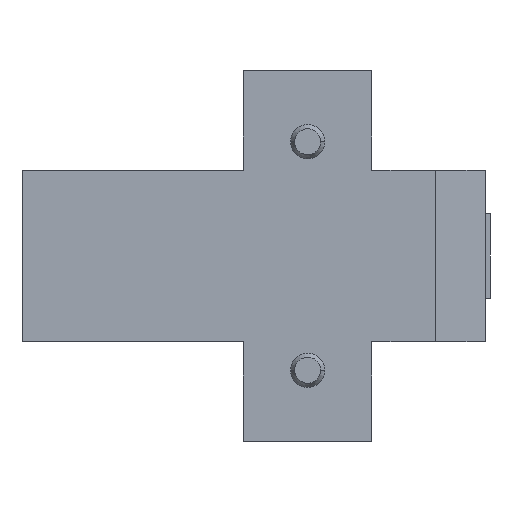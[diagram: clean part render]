
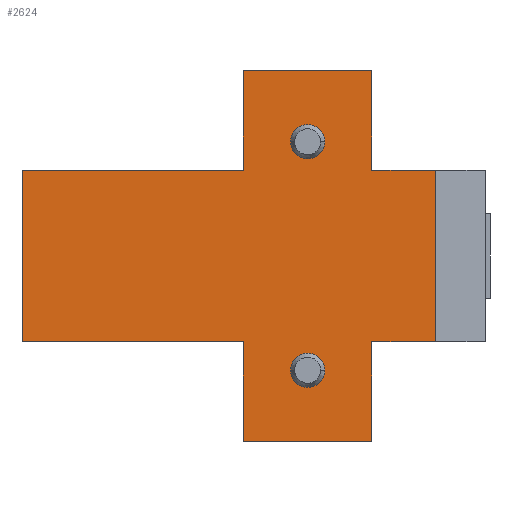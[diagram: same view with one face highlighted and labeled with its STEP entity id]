
A CAD part, left-side view. The second image highlights one B-rep face of the part: STEP entity #2624.
In plain terms, the highlighted planar face has unit normal (-1, 0, 0).
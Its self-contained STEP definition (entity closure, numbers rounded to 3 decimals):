
#481 = CARTESIAN_POINT ( 'NONE',  ( 0., 0., 16. ) ) ;
#482 = DIRECTION ( 'NONE',  ( -1., 0., 0. ) ) ;
#483 = DIRECTION ( 'NONE',  ( 0., 0., -1. ) ) ;
#628 = ORIENTED_EDGE ( 'NONE', *, *, #2740, .F. ) ;
#630 = ORIENTED_EDGE ( 'NONE', *, *, #2713, .F. ) ;
#635 = ORIENTED_EDGE ( 'NONE', *, *, #2745, .F. ) ;
#636 = ORIENTED_EDGE ( 'NONE', *, *, #2741, .F. ) ;
#637 = ORIENTED_EDGE ( 'NONE', *, *, #2743, .F. ) ;
#641 = ORIENTED_EDGE ( 'NONE', *, *, #2744, .F. ) ;
#645 = ORIENTED_EDGE ( 'NONE', *, *, #2747, .F. ) ;
#648 = ORIENTED_EDGE ( 'NONE', *, *, #2748, .T. ) ;
#649 = ORIENTED_EDGE ( 'NONE', *, *, #2750, .F. ) ;
#653 = ORIENTED_EDGE ( 'NONE', *, *, #2742, .T. ) ;
#655 = EDGE_LOOP ( 'NONE', ( #636, #653, #637, #641, #635, #645, #648, #649, #656, #657, #664, #665 ) ) ;
#656 = ORIENTED_EDGE ( 'NONE', *, *, #2751, .F. ) ;
#657 = ORIENTED_EDGE ( 'NONE', *, *, #2752, .F. ) ;
#664 = ORIENTED_EDGE ( 'NONE', *, *, #2753, .T. ) ;
#665 = ORIENTED_EDGE ( 'NONE', *, *, #2755, .T. ) ;
#672 = ORIENTED_EDGE ( 'NONE', *, *, #2756, .F. ) ;
#673 = ORIENTED_EDGE ( 'NONE', *, *, #2678, .F. ) ;
#687 = EDGE_LOOP ( 'NONE', ( #628, #630 ) ) ;
#805 = EDGE_LOOP ( 'NONE', ( #672, #673 ) ) ;
#1143 = CARTESIAN_POINT ( 'NONE',  ( 0., 2.4, 16. ) ) ;
#1146 = CARTESIAN_POINT ( 'NONE',  ( 0., -9., 26. ) ) ;
#1154 = CARTESIAN_POINT ( 'NONE',  ( 0., -9., -12. ) ) ;
#1155 = CARTESIAN_POINT ( 'NONE',  ( 0., -17.9, 12. ) ) ;
#1156 = CARTESIAN_POINT ( 'NONE',  ( 0., -9., 12. ) ) ;
#1158 = CARTESIAN_POINT ( 'NONE',  ( 0., -17.9, -12. ) ) ;
#1159 = CARTESIAN_POINT ( 'NONE',  ( 0., 40., -12. ) ) ;
#1160 = CARTESIAN_POINT ( 'NONE',  ( 0., 40., 12. ) ) ;
#1162 = CARTESIAN_POINT ( 'NONE',  ( 0., 9., 26. ) ) ;
#1163 = CARTESIAN_POINT ( 'NONE',  ( 0., 9., -12. ) ) ;
#1165 = CARTESIAN_POINT ( 'NONE',  ( 0., 9., -26. ) ) ;
#1168 = CARTESIAN_POINT ( 'NONE',  ( 0., 9., 12. ) ) ;
#1171 = CARTESIAN_POINT ( 'NONE',  ( 0., -9., -26. ) ) ;
#1177 = CARTESIAN_POINT ( 'NONE',  ( 0., -2.4, -16. ) ) ;
#1181 = CARTESIAN_POINT ( 'NONE',  ( 0., 2.4, -16. ) ) ;
#1394 = DIRECTION ( 'NONE',  ( 1., 0., 0. ) ) ;
#1397 = FACE_BOUND ( 'NONE', #687, .T. ) ;
#1398 = CARTESIAN_POINT ( 'NONE',  ( 0., -5.007, -12. ) ) ;
#1399 = FACE_OUTER_BOUND ( 'NONE', #655, .T. ) ;
#1401 = FACE_BOUND ( 'NONE', #805, .T. ) ;
#1402 = PLANE ( 'NONE',  #2251 ) ;
#1403 = DIRECTION ( 'NONE',  ( 0., 0., -1. ) ) ;
#1726 = CARTESIAN_POINT ( 'NONE',  ( 0., -2.4, 16. ) ) ;
#1801 = CARTESIAN_POINT ( 'NONE',  ( 0., 0., -16. ) ) ;
#1802 = DIRECTION ( 'NONE',  ( -1., 0., 0. ) ) ;
#1803 = DIRECTION ( 'NONE',  ( 0., 0., -1. ) ) ;
#1886 = CARTESIAN_POINT ( 'NONE',  ( 0., 9., -26. ) ) ;
#1887 = LINE ( 'NONE', #1886, #2297 ) ;
#1892 = LINE ( 'NONE', #1900, #2130 ) ;
#1893 = CARTESIAN_POINT ( 'NONE',  ( 0., 0., -16. ) ) ;
#1894 = DIRECTION ( 'NONE',  ( -1., 0., 0. ) ) ;
#1895 = DIRECTION ( 'NONE',  ( 0., 0., -1. ) ) ;
#1896 = DIRECTION ( 'NONE',  ( 0., 0., 1. ) ) ;
#1897 = LINE ( 'NONE', #1898, #2427 ) ;
#1898 = CARTESIAN_POINT ( 'NONE',  ( 0., -5.007, 12. ) ) ;
#1899 = DIRECTION ( 'NONE',  ( 0., 1., 0. ) ) ;
#1900 = CARTESIAN_POINT ( 'NONE',  ( 0., 40., -12. ) ) ;
#1901 = DIRECTION ( 'NONE',  ( 0., 0., 1. ) ) ;
#1902 = LINE ( 'NONE', #1903, #2274 ) ;
#1903 = CARTESIAN_POINT ( 'NONE',  ( 0., -5.007, -12. ) ) ;
#1904 = DIRECTION ( 'NONE',  ( 0., 1., 0. ) ) ;
#1905 = LINE ( 'NONE', #1907, #2288 ) ;
#1907 = CARTESIAN_POINT ( 'NONE',  ( 0., 9., -26. ) ) ;
#1908 = DIRECTION ( 'NONE',  ( 0., 0., 1. ) ) ;
#1909 = LINE ( 'NONE', #1918, #2261 ) ;
#1914 = LINE ( 'NONE', #1915, #2225 ) ;
#1915 = CARTESIAN_POINT ( 'NONE',  ( 0., -9., -26. ) ) ;
#1916 = DIRECTION ( 'NONE',  ( 0., 1., 0. ) ) ;
#1918 = CARTESIAN_POINT ( 'NONE',  ( 0., -9., -26. ) ) ;
#1919 = DIRECTION ( 'NONE',  ( 0., 0., 1. ) ) ;
#1921 = LINE ( 'NONE', #1930, #2036 ) ;
#1924 = LINE ( 'NONE', #1932, #2003 ) ;
#1926 = LINE ( 'NONE', #1927, #2112 ) ;
#1927 = CARTESIAN_POINT ( 'NONE',  ( 0., -9., -12. ) ) ;
#1928 = DIRECTION ( 'NONE',  ( 0., 1., 0. ) ) ;
#1930 = CARTESIAN_POINT ( 'NONE',  ( 0., -17.9, 38.015 ) ) ;
#1931 = DIRECTION ( 'NONE',  ( 0., 0., -1. ) ) ;
#1932 = CARTESIAN_POINT ( 'NONE',  ( 0., -9., 12. ) ) ;
#1933 = DIRECTION ( 'NONE',  ( 0., -1., 0. ) ) ;
#1934 = LINE ( 'NONE', #1936, #2472 ) ;
#1936 = CARTESIAN_POINT ( 'NONE',  ( 0., -9., -26. ) ) ;
#1937 = DIRECTION ( 'NONE',  ( 0., 0., 1. ) ) ;
#1942 = LINE ( 'NONE', #1943, #2369 ) ;
#1943 = CARTESIAN_POINT ( 'NONE',  ( 0., -9., 26. ) ) ;
#1944 = DIRECTION ( 'NONE',  ( 0., 1., 0. ) ) ;
#1946 = CARTESIAN_POINT ( 'NONE',  ( 0., 0., 16. ) ) ;
#1947 = DIRECTION ( 'NONE',  ( -1., 0., 0. ) ) ;
#1948 = DIRECTION ( 'NONE',  ( 0., 0., -1. ) ) ;
#2003 = VECTOR ( 'NONE', #1933, 1000. ) ;
#2036 = VECTOR ( 'NONE', #1931, 1000. ) ;
#2112 = VECTOR ( 'NONE', #1928, 1000. ) ;
#2130 = VECTOR ( 'NONE', #1901, 1000. ) ;
#2168 = CIRCLE ( 'NONE', #2374, 2.4 ) ;
#2191 = CIRCLE ( 'NONE', #2397, 2.4 ) ;
#2225 = VECTOR ( 'NONE', #1916, 1000. ) ;
#2251 = AXIS2_PLACEMENT_3D ( 'NONE', #1398, #1394, #1403 ) ;
#2261 = VECTOR ( 'NONE', #1919, 1000. ) ;
#2274 = VECTOR ( 'NONE', #1904, 1000. ) ;
#2288 = VECTOR ( 'NONE', #1908, 1000. ) ;
#2297 = VECTOR ( 'NONE', #1896, 1000. ) ;
#2327 = AXIS2_PLACEMENT_3D ( 'NONE', #1801, #1802, #1803 ) ;
#2369 = VECTOR ( 'NONE', #1944, 1000. ) ;
#2374 = AXIS2_PLACEMENT_3D ( 'NONE', #481, #482, #483 ) ;
#2397 = AXIS2_PLACEMENT_3D ( 'NONE', #1893, #1894, #1895 ) ;
#2427 = VECTOR ( 'NONE', #1899, 1000. ) ;
#2456 = CIRCLE ( 'NONE', #2327, 2.4 ) ;
#2470 = AXIS2_PLACEMENT_3D ( 'NONE', #1946, #1947, #1948 ) ;
#2472 = VECTOR ( 'NONE', #1937, 1000. ) ;
#2488 = CIRCLE ( 'NONE', #2470, 2.4 ) ;
#2624 = ADVANCED_FACE ( 'NONE', ( #1397, #1399, #1401 ), #1402, .F. ) ;
#2678 = EDGE_CURVE ( 'NONE', #3628, #3820, #2168, .T. ) ;
#2713 = EDGE_CURVE ( 'NONE', #3666, #3662, #2456, .T. ) ;
#2740 = EDGE_CURVE ( 'NONE', #3662, #3666, #2191, .T. ) ;
#2741 = EDGE_CURVE ( 'NONE', #3653, #3647, #1887, .T. ) ;
#2742 = EDGE_CURVE ( 'NONE', #3653, #3645, #1897, .T. ) ;
#2743 = EDGE_CURVE ( 'NONE', #3644, #3645, #1892, .T. ) ;
#2744 = EDGE_CURVE ( 'NONE', #3648, #3644, #1902, .T. ) ;
#2745 = EDGE_CURVE ( 'NONE', #3650, #3648, #1905, .T. ) ;
#2747 = EDGE_CURVE ( 'NONE', #3656, #3650, #1914, .T. ) ;
#2748 = EDGE_CURVE ( 'NONE', #3656, #3639, #1909, .T. ) ;
#2750 = EDGE_CURVE ( 'NONE', #3643, #3639, #1926, .T. ) ;
#2751 = EDGE_CURVE ( 'NONE', #3640, #3643, #1921, .T. ) ;
#2752 = EDGE_CURVE ( 'NONE', #3641, #3640, #1924, .T. ) ;
#2753 = EDGE_CURVE ( 'NONE', #3641, #3631, #1934, .T. ) ;
#2755 = EDGE_CURVE ( 'NONE', #3631, #3647, #1942, .T. ) ;
#2756 = EDGE_CURVE ( 'NONE', #3820, #3628, #2488, .T. ) ;
#3628 = VERTEX_POINT ( 'NONE', #1143 ) ;
#3631 = VERTEX_POINT ( 'NONE', #1146 ) ;
#3639 = VERTEX_POINT ( 'NONE', #1154 ) ;
#3640 = VERTEX_POINT ( 'NONE', #1155 ) ;
#3641 = VERTEX_POINT ( 'NONE', #1156 ) ;
#3643 = VERTEX_POINT ( 'NONE', #1158 ) ;
#3644 = VERTEX_POINT ( 'NONE', #1159 ) ;
#3645 = VERTEX_POINT ( 'NONE', #1160 ) ;
#3647 = VERTEX_POINT ( 'NONE', #1162 ) ;
#3648 = VERTEX_POINT ( 'NONE', #1163 ) ;
#3650 = VERTEX_POINT ( 'NONE', #1165 ) ;
#3653 = VERTEX_POINT ( 'NONE', #1168 ) ;
#3656 = VERTEX_POINT ( 'NONE', #1171 ) ;
#3662 = VERTEX_POINT ( 'NONE', #1177 ) ;
#3666 = VERTEX_POINT ( 'NONE', #1181 ) ;
#3820 = VERTEX_POINT ( 'NONE', #1726 ) ;
